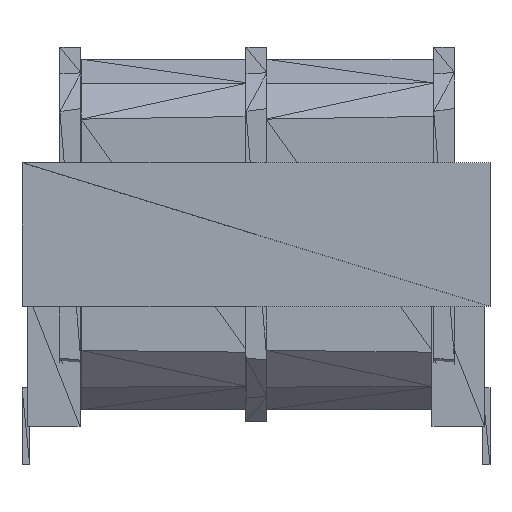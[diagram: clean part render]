
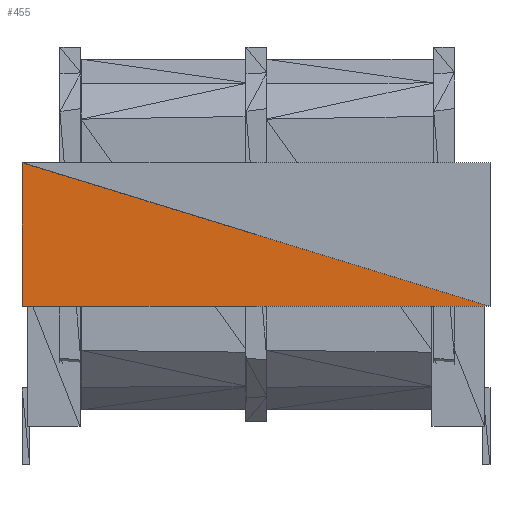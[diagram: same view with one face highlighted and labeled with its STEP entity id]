
A CAD part, front view. The second image highlights one B-rep face of the part: STEP entity #455.
In plain terms, the highlighted planar face has unit normal (0, -1, 0).
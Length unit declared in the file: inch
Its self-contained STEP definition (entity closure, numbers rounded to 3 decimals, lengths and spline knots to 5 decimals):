
#376=CARTESIAN_POINT('',(-0.61,-0.70014,0.68736));
#377=VERTEX_POINT('',#376);
#426=CARTESIAN_POINT('',(-0.61,-0.70014,0.68736));
#427=DIRECTION('',(0.,1.,0.));
#428=DIRECTION('',(1.,0.,0.));
#429=AXIS2_PLACEMENT_3D('',#426,#427,#428);
#430=PLANE('',#429);
#431=CARTESIAN_POINT('',(-0.61,-0.70006,0.31236));
#432=VERTEX_POINT('',#431);
#433=CARTESIAN_POINT('',(-0.61,-0.70006,0.31236));
#434=DIRECTION('',(0.,0.,1.));
#435=VECTOR('',#434,0.375);
#436=LINE('',#433,#435);
#437=EDGE_CURVE('',#432,#377,#436,.T.);
#438=ORIENTED_EDGE('',*,*,#437,.F.);
#439=CARTESIAN_POINT('',(0.61,-0.70006,0.31236));
#440=VERTEX_POINT('',#439);
#441=CARTESIAN_POINT('',(-0.61,-0.70006,0.31236));
#442=DIRECTION('',(1.,0.,-0.));
#443=VECTOR('',#442,1.22);
#444=LINE('',#441,#443);
#445=EDGE_CURVE('',#432,#440,#444,.T.);
#446=ORIENTED_EDGE('',*,*,#445,.T.);
#447=CARTESIAN_POINT('',(0.61,-0.70006,0.31236));
#448=DIRECTION('',(-0.956,0.,0.294));
#449=VECTOR('',#448,1.27633);
#450=LINE('',#447,#449);
#451=EDGE_CURVE('',#440,#377,#450,.T.);
#452=ORIENTED_EDGE('',*,*,#451,.T.);
#453=EDGE_LOOP('',(#438,#446,#452));
#454=FACE_BOUND('',#453,.T.);
#455=ADVANCED_FACE('',(#454),#430,.F.);
